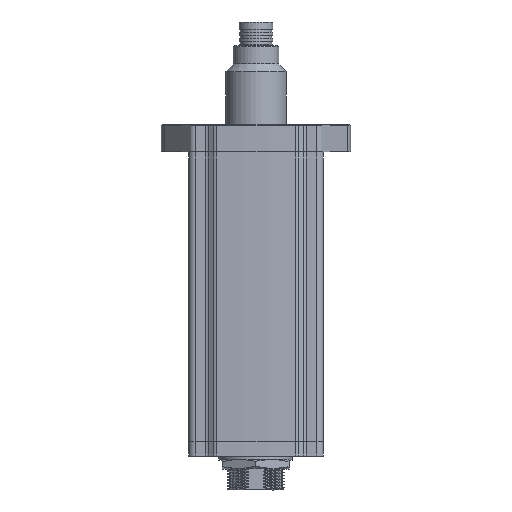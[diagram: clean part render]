
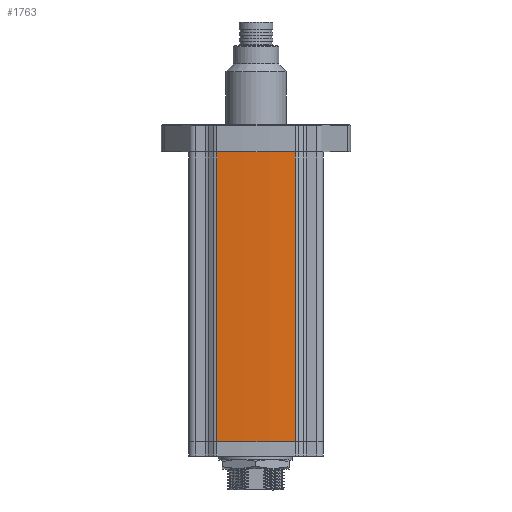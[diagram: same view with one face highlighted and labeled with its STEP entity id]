
A CAD part, left-side view. The second image highlights one B-rep face of the part: STEP entity #1763.
In plain terms, the highlighted cylindrical face has radius 165.395 mm (diameter 330.791 mm), a partial arc.
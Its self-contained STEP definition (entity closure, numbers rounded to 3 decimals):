
#930=CYLINDRICAL_SURFACE('',#9880,165.395);
#1292=FACE_OUTER_BOUND('',#2945,.T.);
#1763=ADVANCED_FACE('',(#1292),#930,.T.);
#2945=EDGE_LOOP('',(#5645,#5646,#5647,#5648));
#3546=LINE('',#39518,#4070);
#3547=LINE('',#39522,#4071);
#4070=VECTOR('',#11649,1.);
#4071=VECTOR('',#11652,1.);
#5645=ORIENTED_EDGE('',*,*,#8256,.T.);
#5646=ORIENTED_EDGE('',*,*,#8257,.T.);
#5647=ORIENTED_EDGE('',*,*,#8258,.F.);
#5648=ORIENTED_EDGE('',*,*,#8259,.T.);
#7208=VERTEX_POINT('',#39516);
#7209=VERTEX_POINT('',#39517);
#7210=VERTEX_POINT('',#39519);
#7211=VERTEX_POINT('',#39521);
#8256=EDGE_CURVE('',#7208,#7209,#9009,.T.);
#8257=EDGE_CURVE('',#7209,#7210,#3546,.T.);
#8258=EDGE_CURVE('',#7211,#7210,#9010,.T.);
#8259=EDGE_CURVE('',#7211,#7208,#3547,.T.);
#9009=CIRCLE('',#9878,165.395);
#9010=CIRCLE('',#9879,165.395);
#9878=AXIS2_PLACEMENT_3D('',#39515,#11647,#11648);
#9879=AXIS2_PLACEMENT_3D('',#39520,#11650,#11651);
#9880=AXIS2_PLACEMENT_3D('',#39523,#11653,#11654);
#11647=DIRECTION('',(0.,0.,1.));
#11648=DIRECTION('',(1.,0.,0.));
#11649=DIRECTION('',(0.,0.,1.));
#11650=DIRECTION('',(0.,0.,1.));
#11651=DIRECTION('',(1.,0.,0.));
#11652=DIRECTION('',(0.,0.,-1.));
#11653=DIRECTION('',(0.,0.,1.));
#11654=DIRECTION('',(1.,0.,0.));
#39515=CARTESIAN_POINT('',(147.645,0.,-94.));
#39516=CARTESIAN_POINT('',(-17.25,12.847,-94.));
#39517=CARTESIAN_POINT('',(-17.25,-12.847,-94.));
#39518=CARTESIAN_POINT('',(-17.25,-12.847,-5.));
#39519=CARTESIAN_POINT('',(-17.25,-12.847,1.));
#39520=CARTESIAN_POINT('',(147.645,0.,1.));
#39521=CARTESIAN_POINT('',(-17.25,12.847,1.));
#39522=CARTESIAN_POINT('',(-17.25,12.847,-5.));
#39523=CARTESIAN_POINT('',(147.645,0.,-5.));
